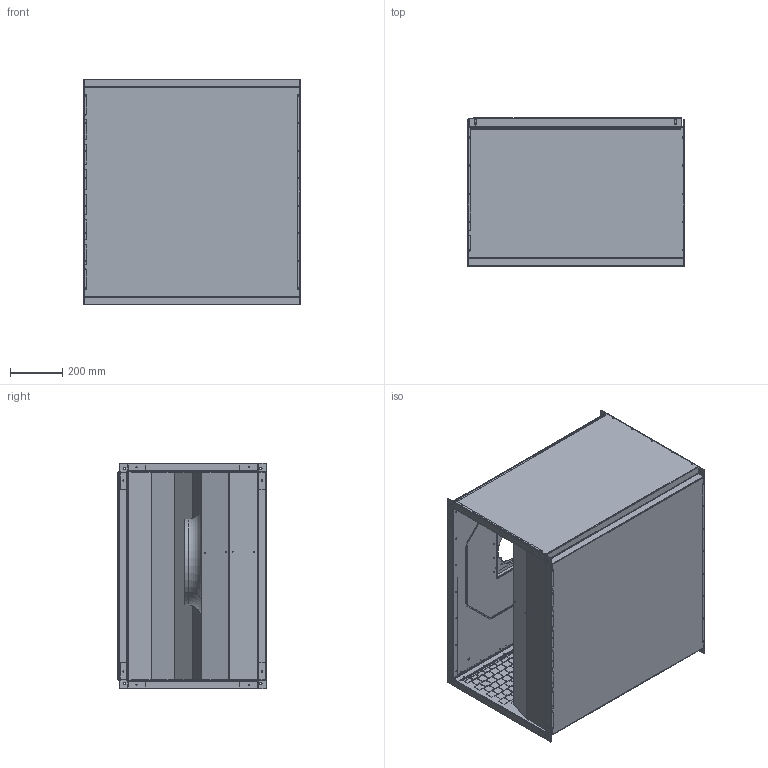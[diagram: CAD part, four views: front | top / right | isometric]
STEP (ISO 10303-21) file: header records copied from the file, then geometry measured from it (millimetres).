
FILE_DESCRIPTION (( 'STEP AP203' ), '1' );
FILE_NAME ('131443-00_KVRI08050EC30.STEP', '2015-05-11T12:50:03', ( '' ), ( '' ), 'SwSTEP 2.0', 'SolidWorks 2012', '' );
FILE_SCHEMA (( 'CONFIG_CONTROL_DESIGN' ));
Length unit declared in the file: millimetre
Products named in the file (1): 131443-00_KVRI08050EC30
Bounding box: 830 x 567.5 x 862 mm (x, y, z)
Surface area: 9453387.8 mm2 (no closed solid volume)
Topology: 0 solids, 67 shells, 1525 faces, 13684 edges, 11709 vertices
Faces by surface type: plane 1103, cylinder 414, torus 4, bspline 4
Entity records: 129483 total; most frequent: CARTESIAN_POINT 27714, DIRECTION 18492, ORIENTED_EDGE 16936, EDGE_CURVE 13684, VECTOR 11806, LINE 11806, VERTEX_POINT 11709, EDGE_LOOP 4459
